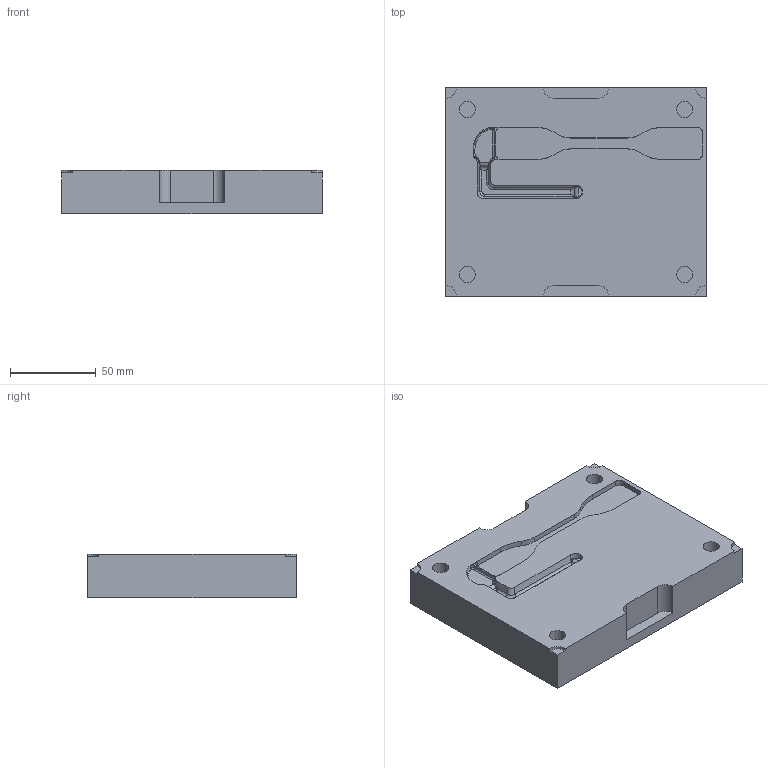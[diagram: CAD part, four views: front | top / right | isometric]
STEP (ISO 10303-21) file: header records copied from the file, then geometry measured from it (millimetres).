
FILE_DESCRIPTION(/* description */ ('Alibre Inc.'),/* implementation_level */ '2;1');
FILE_NAME(/* name */ 'export0',/* time_stamp */ '2018-06-18T13:05:59-04:00',/* author */ (''),/* organization */ (''),/* preprocessor_version */ 'ST-DEVELOPER v14',/* originating_system */ 'Alibre',/* authorisation */ '');
FILE_SCHEMA (('CONFIG_CONTROL_DESIGN'));
Length unit declared in the file: centimetre
Products named in the file (1): ID_1
Bounding box: 152.4 x 121.92 x 25.4 mm (x, y, z)
Volume: 448722.1 mm3; surface area: 55564.6 mm2
Topology: 1 solids, 1 shells, 99 faces, 256 edges, 162 vertices
Faces by surface type: plane 39, cylinder 29, bspline 22, cone 9
Full cylindrical faces by diameter (mm): 9.525 x4
Entity records: 5261 total; most frequent: CARTESIAN_POINT 2882, ORIENTED_EDGE 500, DIRECTION 424, EDGE_CURVE 250, AXIS2_PLACEMENT_3D 175, VERTEX_POINT 162, VECTOR 113, LINE 113
